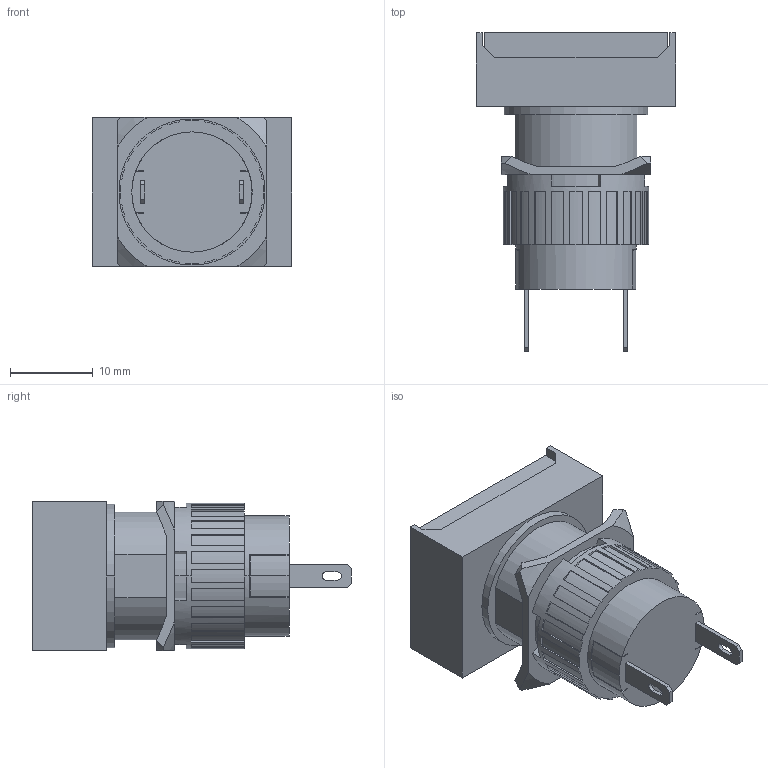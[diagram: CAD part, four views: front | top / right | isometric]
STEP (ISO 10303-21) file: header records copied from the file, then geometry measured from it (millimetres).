
FILE_DESCRIPTION (( 'STEP AP203' ), '1' );
FILE_NAME ('P16-PL.STEP', '2018-02-15T15:27:07', ( '' ), ( '' ), 'SwSTEP 2.0', 'SolidWorks 2012', '' );
FILE_SCHEMA (( 'CONFIG_CONTROL_DESIGN' ));
Length unit declared in the file: millimetre
Products named in the file (1): P16-PL
Bounding box: 24 x 38.4 x 18 mm (x, y, z)
Volume: 8167.9 mm3; surface area: 4266.6 mm2
Topology: 1 solids, 1 shells, 209 faces, 597 edges, 398 vertices
Faces by surface type: plane 150, cylinder 47, cone 12
Entity records: 6950 total; most frequent: CARTESIAN_POINT 1277, ORIENTED_EDGE 1194, DIRECTION 1163, EDGE_CURVE 597, VECTOR 403, LINE 403, VERTEX_POINT 398, AXIS2_PLACEMENT_3D 380
